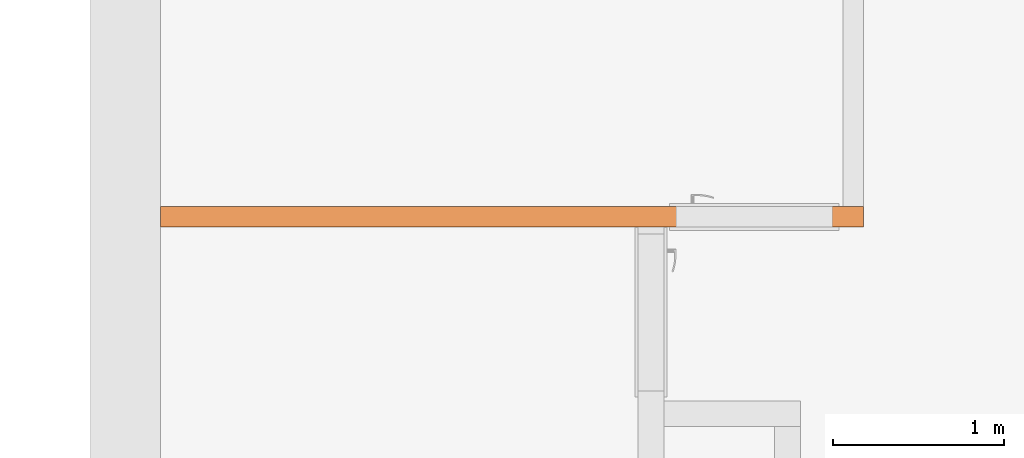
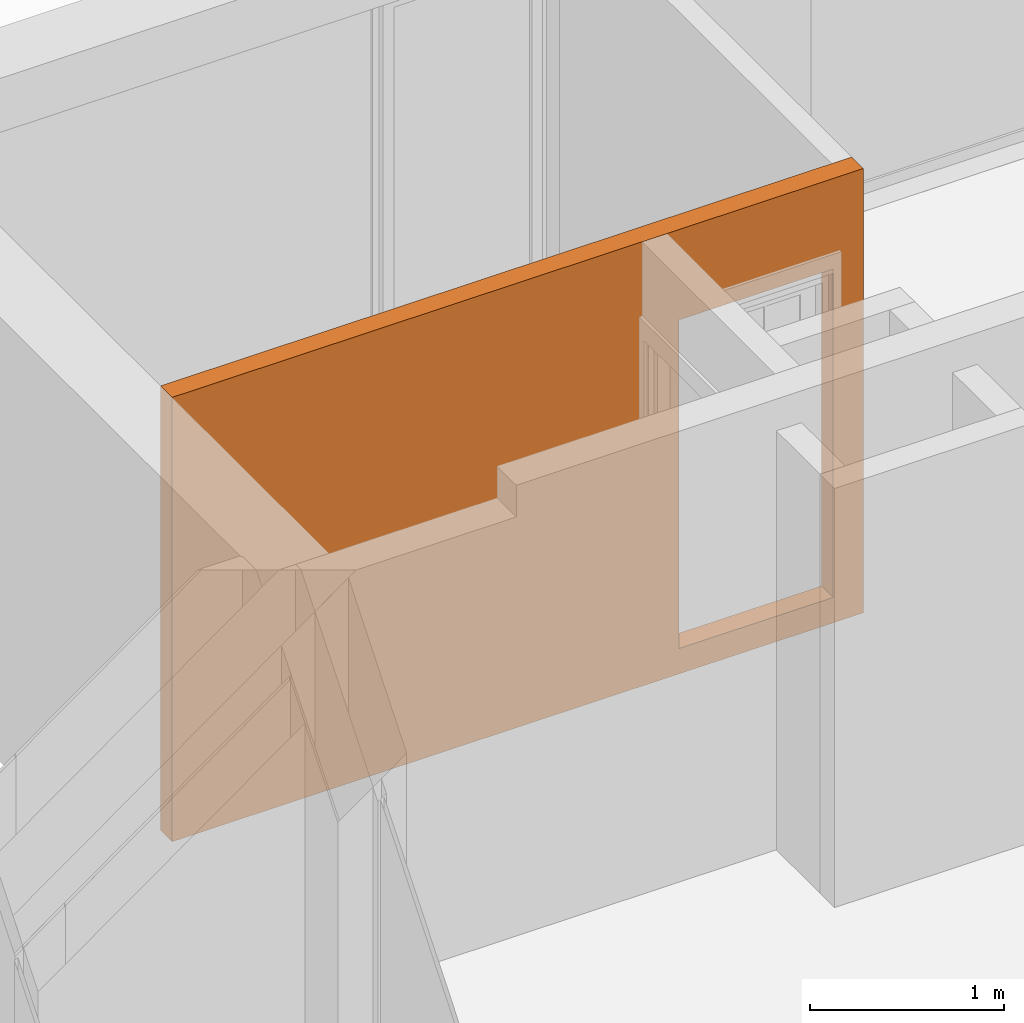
# One storey, part 38 of 61: 1 proxy, 1 opening.
"""IFC2X3 building model written with IfcOpenShell, lengths in millimetres."""

from ifc_helpers import new_model, entity, si_unit, converted_unit, derived_unit, money_unit, direction, frame, origin_with_axes, origin_2d_with_axis, place, context, subcontext, project, spatial, rectangle, extrude, faceted_brep, material, type_object, element, save


model = new_model("IFC2X3")

# Units and contexts
model_context = context("Model", 3, precision=0.01, world=origin_with_axes(), true_north=direction((0.34421633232, 0.938890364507)))
body_context = subcontext(model_context, "Body", "Model", "MODEL_VIEW")
ifc_project = project(units=[si_unit("LENGTHUNIT", "METRE", prefix="MILLI"), si_unit("AREAUNIT", "SQUARE_METRE"), si_unit("VOLUMEUNIT", "CUBIC_METRE"), converted_unit("PLANEANGLEUNIT", "DEGREE", entity("IfcPlaneAngleMeasure", 0.0174532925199), si_unit("PLANEANGLEUNIT", "RADIAN"), dimensions=[0, 0, 0, 0, 0, 0, 0]), si_unit("SOLIDANGLEUNIT", "STERADIAN"), money_unit("USD"), converted_unit("TIMEUNIT", "Year", entity("IfcTimeMeasure", 31556926.0), si_unit("TIMEUNIT", "SECOND"), dimensions=[0, 0, 1, 0, 0, 0, 0]), si_unit("MASSUNIT", "GRAM", prefix="KILO"), si_unit("THERMODYNAMICTEMPERATUREUNIT", "DEGREE_CELSIUS"), si_unit("LUMINOUSINTENSITYUNIT", "LUMEN"), si_unit("ENERGYUNIT", "JOULE", prefix="MEGA"), derived_unit("THERMALCONDUCTANCEUNIT", [(si_unit("POWERUNIT", "WATT"), 1), (si_unit("LENGTHUNIT", "METRE"), -1), (si_unit("THERMODYNAMICTEMPERATUREUNIT", "KELVIN"), -1)]), derived_unit("SPECIFICHEATCAPACITYUNIT", [(si_unit("ENERGYUNIT", "JOULE"), 1), (si_unit("MASSUNIT", "GRAM", prefix="KILO"), -1), (si_unit("THERMODYNAMICTEMPERATUREUNIT", "KELVIN"), -1)]), derived_unit("MASSDENSITYUNIT", [(si_unit("MASSUNIT", "GRAM", prefix="KILO"), 1), (si_unit("VOLUMEUNIT", "CUBIC_METRE"), -1)])], contexts=[model_context])

# Site, building, storey
site_placement = place(None, origin_with_axes())
site = spatial("IfcSite", under=ifc_project, at=site_placement, Name="USTRONIE MORSKIE", CompositionType="ELEMENT")
building_placement = place(site_placement, origin_with_axes())
building = spatial("IfcBuilding", under=site, at=building_placement, Name="Budynek", CompositionType="ELEMENT")
storey_placement = place(building_placement, frame((0.0, 0.0, 13000.0), z_axis=(0.0, 0.0, 1.0), x_axis=(1.0, 0.0, 0.0)))
storey = spatial("IfcBuildingStorey", under=building, at=storey_placement, Name="PIĘTRO 4", CompositionType="ELEMENT", Elevation=13000.0)

# Proxy, opening
ifc_material = material(Name="Bloczki silikatowe")
building_element_proxy_type = type_object("IfcBuildingElementProxyType", Name="Bloczki silikatowe 120", PredefinedType="NOTDEFINED")
proxy_placement = place(storey_placement, frame((350067.920919, 746481.199036, -160.0), z_axis=(0.0, 0.0, 1.0), x_axis=(1.0, 0.0, 0.0)))
proxy = element("IfcBuildingElementProxy", 1, at=proxy_placement, inside=storey, type_object=building_element_proxy_type, material=ifc_material, Name="SW-04", context=body_context, shape_type="Brep", body=[
    faceted_brep([(4220.0, 59.9999999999, 0.0), (4220.0, -59.9999999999, 0.0), (100.0, -59.9999999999, 0.0), (100.0, 59.9999999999, 0.0), (4220.0, 59.9999999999, 2800.0), (4220.0, -59.9999999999, 2800.0), (100.0, -59.9999999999, 2800.0), (100.0, 59.9999999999, 2800.0)], [[[0, 1, 2, 3]], [[1, 0, 4, 5]], [[1, 5, 6, 2]], [[7, 3, 2, 6]], [[4, 0, 3, 7]], [[5, 4, 7, 6]]]),
])
opening_placement = place(proxy_placement, frame((3580.0, 0.0, 160.0), z_axis=(0.0, 0.0, 1.0), x_axis=(1.0, 0.0, 0.0)))
element("IfcOpeningElement", 2, at=opening_placement, cuts=proxy, Name="Dw.3", context=body_context, shape_type="SweptSolid", body=[
    extrude(rectangle(XDim=920.0, YDim=2070.0, at=origin_2d_with_axis()), frame((0.0, -120.0, 1035.0), z_axis=(0.0, 1.0, 0.0), x_axis=(1.0, 0.0, 0.0)), (0.0, 0.0, 1.0), 360.0),
    extrude(rectangle(XDim=994.0, YDim=2177.0, at=origin_2d_with_axis()), frame((0.0, -59.9999999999, 1088.5), z_axis=(0.0, 1.0, 0.0), x_axis=(1.0, 0.0, 0.0)), (0.0, 0.0, -1.0), 120.0),
    extrude(rectangle(XDim=994.0, YDim=2177.0, at=origin_2d_with_axis()), frame((0.0, 60.0000000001, 1088.5), z_axis=(0.0, -1.0, 0.0), x_axis=(1.0, 0.0, 0.0)), (0.0, 0.0, -1.0), 120.0),
])

save(model, "model.ifc")
